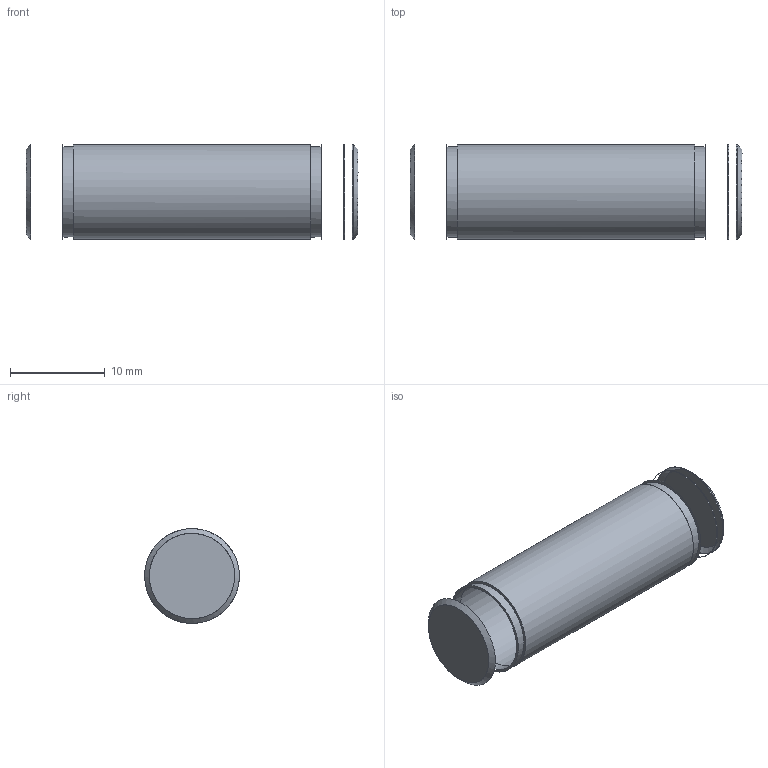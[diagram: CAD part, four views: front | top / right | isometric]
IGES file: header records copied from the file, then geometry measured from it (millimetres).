
Start section: File produced by SOLID-CONCEP (Trim Surfaces - Entity 144)
Global section: file name: 52.igs; native system: SOLID-CONCEPT V.5.xx; preprocessor: SOLID-CONCEPT-IGES-OUT v2.00; date: 100220.125031; units: millimetre
Bounding box: 35 x 10 x 10 mm (x, y, z)
Surface area: 1057.4 mm2 (no closed solid volume)
Topology: 0 solids, 0 shells, 13 faces, 68 edges, 54 vertices
Faces by surface type: revolution 7, bspline 6
